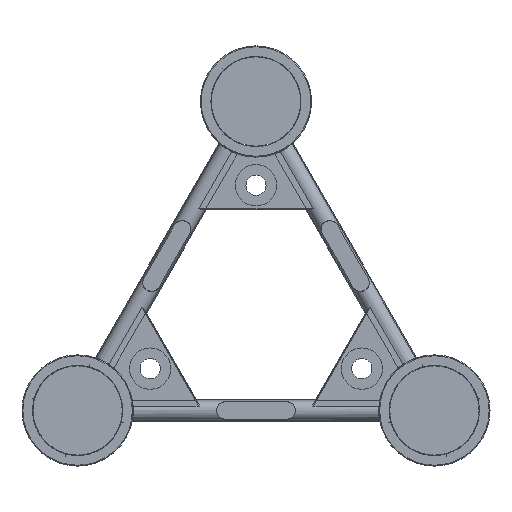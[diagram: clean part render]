
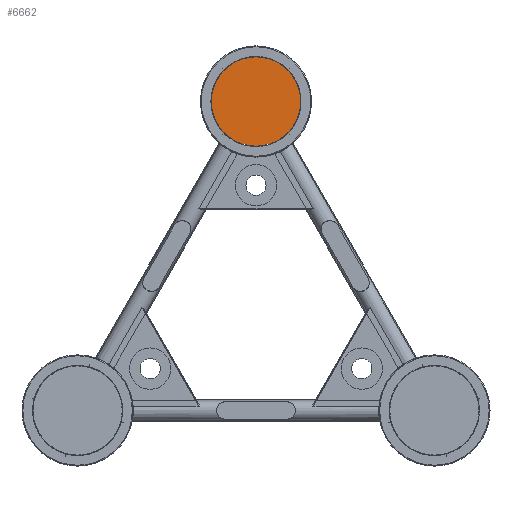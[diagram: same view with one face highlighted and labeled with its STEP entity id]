
A CAD part, left-side view. The second image highlights one B-rep face of the part: STEP entity #6662.
In plain terms, the highlighted planar face has unit normal (-1, 0, 0).
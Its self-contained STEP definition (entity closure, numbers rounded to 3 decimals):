
#41=CIRCLE('',#7295,25.4);
#935=FACE_OUTER_BOUND('',#1467,.T.);
#1467=EDGE_LOOP('',(#4589));
#2845=VERTEX_POINT('',#10413);
#3475=EDGE_CURVE('',#2845,#2845,#41,.T.);
#4589=ORIENTED_EDGE('',*,*,#3475,.F.);
#5879=PLANE('',#7298);
#6662=ADVANCED_FACE('',(#935),#5879,.T.);
#7295=AXIS2_PLACEMENT_3D('',#10414,#8589,#8590);
#7298=AXIS2_PLACEMENT_3D('',#10417,#8595,#8596);
#8589=DIRECTION('center_axis',(1.,0.,0.));
#8590=DIRECTION('ref_axis',(0.,-1.,0.));
#8595=DIRECTION('center_axis',(-1.,0.,0.));
#8596=DIRECTION('ref_axis',(0.,-1.,0.));
#10413=CARTESIAN_POINT('',(0.,126.9,175.803));
#10414=CARTESIAN_POINT('Origin',(0.,101.5,
175.803));
#10417=CARTESIAN_POINT('Origin',(0.,101.5,
175.803));
